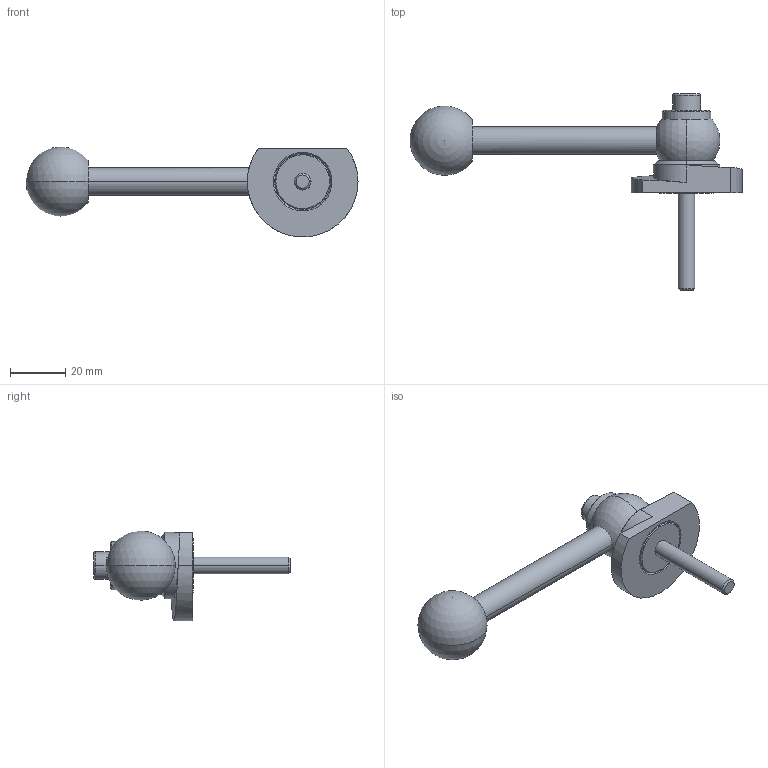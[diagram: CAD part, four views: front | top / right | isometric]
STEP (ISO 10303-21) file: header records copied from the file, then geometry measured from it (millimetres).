
FILE_DESCRIPTION (( 'STEP AP214' ), '1' );
FILE_NAME ('918.1-40-GVS-L-65.step', '2024-05-15T12:59:28', ( '' ), ( '' ), 'SwSTEP 2.0', 'SolidWorks 2022', '' );
FILE_SCHEMA (( 'AUTOMOTIVE_DESIGN' ));
Length unit declared in the file: millimetre
Products named in the file (1): 918.1-40-GVS-L-65
Bounding box: 120 x 71 x 32.5 mm (x, y, z)
Volume: 30497.4 mm3; surface area: 11398.8 mm2
Topology: 1 solids, 1 shells, 62 faces, 141 edges, 89 vertices
Faces by surface type: plane 20, cylinder 19, cone 14, sphere 4, bspline 3, torus 2
Entity records: 2003 total; most frequent: CARTESIAN_POINT 614, DIRECTION 304, ORIENTED_EDGE 262, EDGE_CURVE 131, AXIS2_PLACEMENT_3D 125, VERTEX_POINT 83, EDGE_LOOP 74, CIRCLE 65
